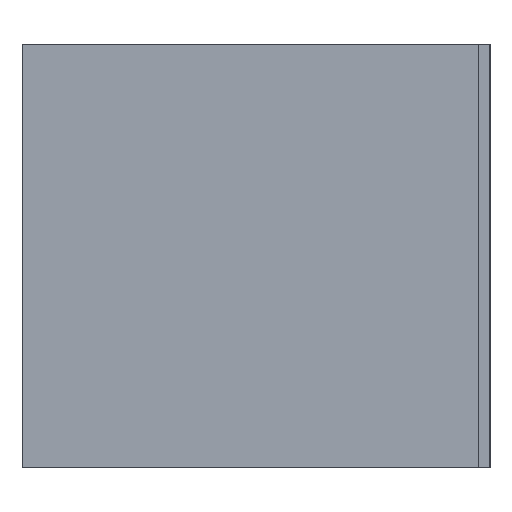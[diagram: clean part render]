
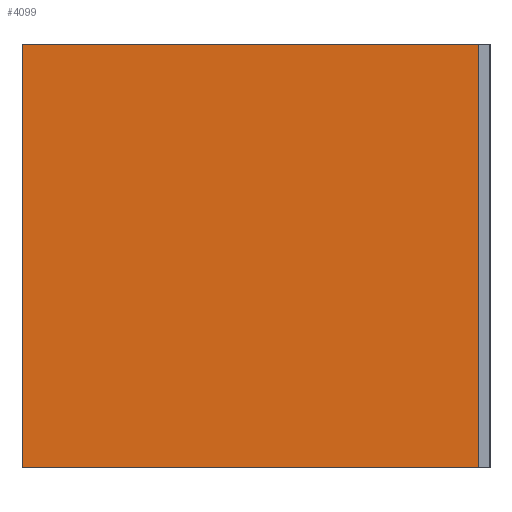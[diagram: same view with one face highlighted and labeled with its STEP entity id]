
A CAD part, left-side view. The second image highlights one B-rep face of the part: STEP entity #4099.
In plain terms, the highlighted planar face has unit normal (-1, 0, 0).
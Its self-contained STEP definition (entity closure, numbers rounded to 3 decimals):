
#130 = CARTESIAN_POINT ( 'NONE',  ( 0., -24.25, -22.5 ) ) ;
#590 = AXIS2_PLACEMENT_3D ( 'NONE', #2169, #2157, #2074 ) ;
#627 = LINE ( 'NONE', #10256, #10201 ) ;
#796 = LINE ( 'NONE', #130, #10243 ) ;
#808 = LINE ( 'NONE', #6368, #10174 ) ;
#1327 = EDGE_CURVE ( 'NONE', #4924, #10450, #796, .T. ) ;
#1343 = EDGE_CURVE ( 'NONE', #2441, #4924, #10230, .T. ) ;
#1345 = EDGE_CURVE ( 'NONE', #7211, #2441, #808, .T. ) ;
#1369 = EDGE_CURVE ( 'NONE', #10450, #7211, #627, .T. ) ;
#2074 = DIRECTION ( 'NONE',  ( 0., 0., 1. ) ) ;
#2157 = DIRECTION ( 'NONE',  ( -1., 0., 0. ) ) ;
#2169 = CARTESIAN_POINT ( 'NONE',  ( 0., 24.25, -22.5 ) ) ;
#2441 = VERTEX_POINT ( 'NONE', #7969 ) ;
#2455 = PLANE ( 'NONE',  #590 ) ;
#3187 = DIRECTION ( 'NONE',  ( 0., 1., 0. ) ) ;
#4088 = FACE_OUTER_BOUND ( 'NONE', #11940, .T. ) ;
#4099 = ADVANCED_FACE ( 'NONE', ( #4088 ), #2455, .T. ) ;
#4924 = VERTEX_POINT ( 'NONE', #6365 ) ;
#5394 = CARTESIAN_POINT ( 'NONE',  ( 0., 24.25, 22.5 ) ) ;
#6365 = CARTESIAN_POINT ( 'NONE',  ( 0., -24.25, -22.5 ) ) ;
#6368 = CARTESIAN_POINT ( 'NONE',  ( 0., -24.25, 22.5 ) ) ;
#6728 = ORIENTED_EDGE ( 'NONE', *, *, #1343, .F. ) ;
#6741 = CARTESIAN_POINT ( 'NONE',  ( 0., -24.25, 22.5 ) ) ;
#6750 = ORIENTED_EDGE ( 'NONE', *, *, #1327, .F. ) ;
#6760 = ORIENTED_EDGE ( 'NONE', *, *, #1345, .F. ) ;
#6768 = CARTESIAN_POINT ( 'NONE',  ( 0., 24.25, -22.5 ) ) ;
#6981 = ORIENTED_EDGE ( 'NONE', *, *, #1369, .F. ) ;
#7211 = VERTEX_POINT ( 'NONE', #5394 ) ;
#7364 = DIRECTION ( 'NONE',  ( 0., 0., -1. ) ) ;
#7969 = CARTESIAN_POINT ( 'NONE',  ( 0., -24.25, 22.5 ) ) ;
#8426 = DIRECTION ( 'NONE',  ( 0., -1., 0. ) ) ;
#10174 = VECTOR ( 'NONE', #8426, 1000. ) ;
#10199 = VECTOR ( 'NONE', #7364, 1000. ) ;
#10201 = VECTOR ( 'NONE', #11183, 1000. ) ;
#10230 = LINE ( 'NONE', #6741, #10199 ) ;
#10243 = VECTOR ( 'NONE', #3187, 1000. ) ;
#10256 = CARTESIAN_POINT ( 'NONE',  ( 0., 24.25, 22.5 ) ) ;
#10450 = VERTEX_POINT ( 'NONE', #6768 ) ;
#11183 = DIRECTION ( 'NONE',  ( 0., 0., 1. ) ) ;
#11940 = EDGE_LOOP ( 'NONE', ( #6750, #6728, #6760, #6981 ) ) ;
